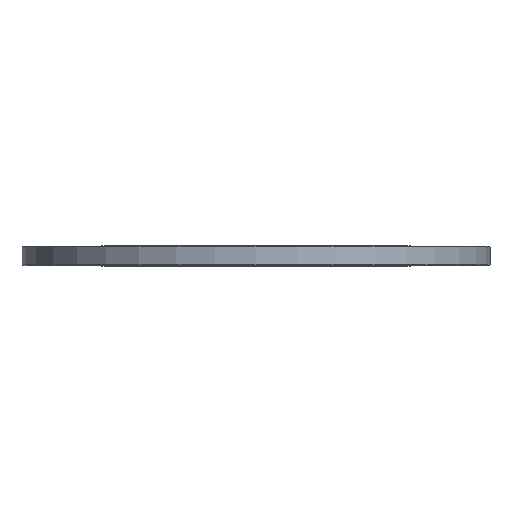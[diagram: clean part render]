
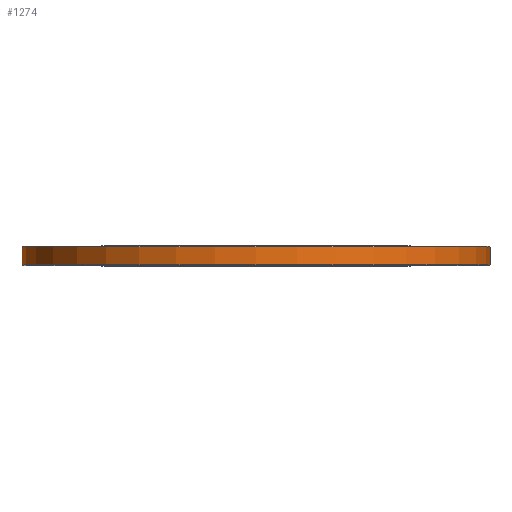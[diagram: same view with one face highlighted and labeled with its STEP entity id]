
A CAD part, top view. The second image highlights one B-rep face of the part: STEP entity #1274.
In plain terms, the highlighted cylindrical face has radius 627.5 mm (diameter 1255 mm), a full revolution.
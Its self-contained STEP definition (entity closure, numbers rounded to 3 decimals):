
#246=ORIENTED_EDGE('',*,*,#432,.T.);
#247=ORIENTED_EDGE('',*,*,#433,.T.);
#432=EDGE_CURVE('',#552,#552,#672,.F.);
#433=EDGE_CURVE('',#553,#553,#673,.T.);
#552=VERTEX_POINT('',#2240);
#553=VERTEX_POINT('',#2242);
#672=CIRCLE('',#1490,627.5);
#673=CIRCLE('',#1491,627.5);
#846=EDGE_LOOP('',(#246));
#847=EDGE_LOOP('',(#247));
#1086=FACE_BOUND('',#846,.T.);
#1087=FACE_BOUND('',#847,.T.);
#1190=CYLINDRICAL_SURFACE('',#1489,627.5);
#1274=ADVANCED_FACE('',(#1086,#1087),#1190,.T.);
#1489=AXIS2_PLACEMENT_3D('',#2238,#1895,#1896);
#1490=AXIS2_PLACEMENT_3D('',#2239,#1897,#1898);
#1491=AXIS2_PLACEMENT_3D('',#2241,#1899,#1900);
#1895=DIRECTION('',(0.,-1.,0.));
#1896=DIRECTION('',(0.,0.,-1.));
#1897=DIRECTION('',(0.,1.,0.));
#1898=DIRECTION('',(0.,0.,1.));
#1899=DIRECTION('',(0.,1.,0.));
#1900=DIRECTION('',(0.,0.,1.));
#2238=CARTESIAN_POINT('',(0.,52.,0.));
#2239=CARTESIAN_POINT('',(0.,50.,0.));
#2240=CARTESIAN_POINT('',(0.,50.,627.5));
#2241=CARTESIAN_POINT('',(0.,2.,0.));
#2242=CARTESIAN_POINT('',(0.,2.,627.5));
